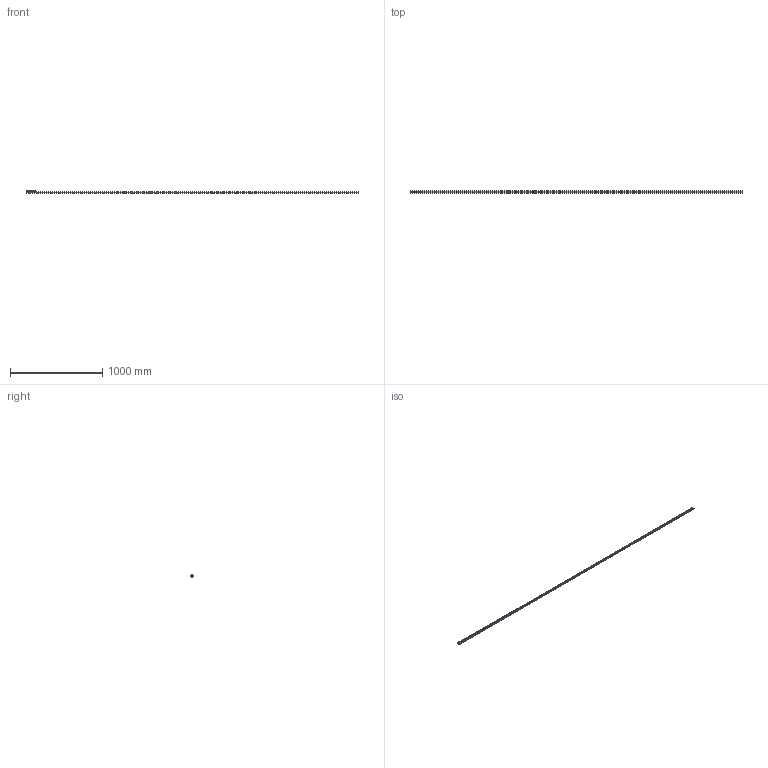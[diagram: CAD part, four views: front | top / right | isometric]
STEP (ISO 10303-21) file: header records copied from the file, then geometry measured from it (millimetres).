
FILE_DESCRIPTION( ( 'STEP AP214' ), '1' );
FILE_NAME( 'p:/temp/worker_22/temp/exporttempdir_3544_377_xWyv7/format_0/TEN26-3600-CEN26-92.stp', '2020-05-08T18:55:35', ( 'License CC BY-ND 4.0' ), ( 'CADENAS' ), ' ', 'PARTsolutions', ' ' );
FILE_SCHEMA( ( 'AUTOMOTIVE_DESIGN { 1 0 10303 214 1 1 1 1 }' ) );
Length unit declared in the file: millimetre
Products named in the file (6): TEN26-3600-CEN26-92; _TEN 26-3600; _CEN26-92_1; _RLN26(11.2_M5); _RLA26(11.2_M5); _LAN-26
Assembly tree (8 placements, depth 2):
  TEN26-3600-CEN26-92
    _TEN 26-3600
    _CEN26-92_1
    _RLN26(11.2_M5)  x2
    _RLA26(11.2_M5)
    _LAN-26  x3
Bounding box: 3600 x 25.88 x 22 mm (x, y, z)
Volume: 384844.6 mm3; surface area: 326829.7 mm2
Topology: 8 solids, 8 shells, 278 faces, 636 edges, 401 vertices
Faces by surface type: plane 131, cylinder 114, cone 24, bspline 9
Full cylindrical faces by diameter (mm): 2.5 x2, 4.134 x5, 4.5 x3, 5 x6, 6.5 x45, 9.3 x3, 11.2 x6, 11.6 x6, 15.7 x6, 16.7 x6
Entity records: 7148 total; most frequent: CARTESIAN_POINT 1010, DIRECTION 982, ORIENTED_EDGE 714, AXIS2_PLACEMENT_3D 427, EDGE_LOOP 412, EDGE_CURVE 357, VERTEX_POINT 287, FACE_OUTER_BOUND 274
